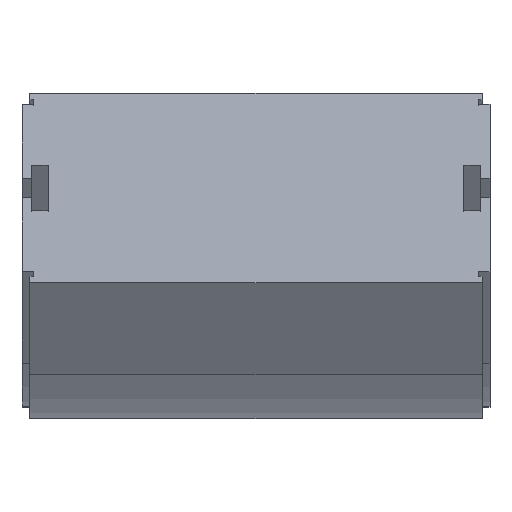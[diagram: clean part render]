
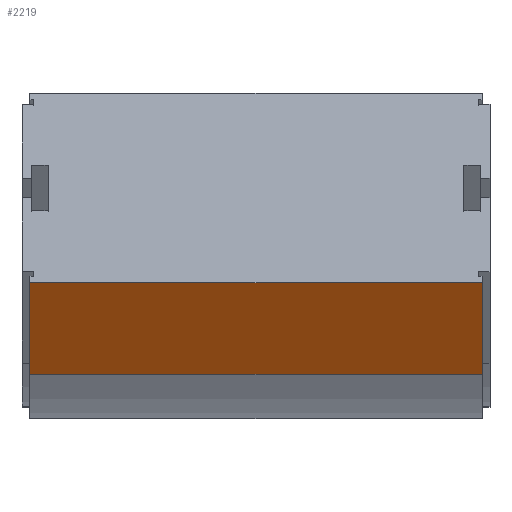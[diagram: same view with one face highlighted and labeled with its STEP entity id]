
A CAD part, top view. The second image highlights one B-rep face of the part: STEP entity #2219.
In plain terms, the highlighted planar face has unit normal (0, -0.966, 0.259).
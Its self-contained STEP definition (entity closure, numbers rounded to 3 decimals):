
#29 = DIRECTION ( 'NONE',  ( 0., 0.966, -0.259 ) ) ;
#76 = CARTESIAN_POINT ( 'NONE',  ( -96.65, 15.291, 435.169 ) ) ;
#205 = EDGE_CURVE ( 'NONE', #2377, #754, #1942, .T. ) ;
#250 = DIRECTION ( 'NONE',  ( 0., 0.259, 0.966 ) ) ;
#328 = ORIENTED_EDGE ( 'NONE', *, *, #920, .F. ) ;
#681 = DIRECTION ( 'NONE',  ( -1., 0., 0. ) ) ;
#754 = VERTEX_POINT ( 'NONE', #2047 ) ;
#792 = EDGE_LOOP ( 'NONE', ( #328, #2247, #1402, #2139 ) ) ;
#793 = LINE ( 'NONE', #800, #3051 ) ;
#800 = CARTESIAN_POINT ( 'NONE',  ( 96.65, -23.532, 290.28 ) ) ;
#815 = CARTESIAN_POINT ( 'NONE',  ( 96.65, 15.291, 435.169 ) ) ;
#845 = DIRECTION ( 'NONE',  ( -1., 0., 0. ) ) ;
#872 = LINE ( 'NONE', #3098, #2833 ) ;
#920 = EDGE_CURVE ( 'NONE', #1802, #2377, #872, .T. ) ;
#1091 = EDGE_CURVE ( 'NONE', #1802, #2417, #793, .T. ) ;
#1153 = VECTOR ( 'NONE', #845, 1000. ) ;
#1203 = EDGE_CURVE ( 'NONE', #2417, #754, #3094, .T. ) ;
#1297 = VECTOR ( 'NONE', #2491, 1000. ) ;
#1402 = ORIENTED_EDGE ( 'NONE', *, *, #1203, .T. ) ;
#1494 = CARTESIAN_POINT ( 'NONE',  ( -96.65, -23.532, 290.28 ) ) ;
#1589 = FACE_OUTER_BOUND ( 'NONE', #792, .T. ) ;
#1802 = VERTEX_POINT ( 'NONE', #2459 ) ;
#1942 = LINE ( 'NONE', #2753, #1297 ) ;
#2047 = CARTESIAN_POINT ( 'NONE',  ( -96.65, 15.291, 435.169 ) ) ;
#2139 = ORIENTED_EDGE ( 'NONE', *, *, #205, .F. ) ;
#2219 = ADVANCED_FACE ( 'NONE', ( #1589 ), #2687, .F. ) ;
#2247 = ORIENTED_EDGE ( 'NONE', *, *, #1091, .T. ) ;
#2377 = VERTEX_POINT ( 'NONE', #1494 ) ;
#2417 = VERTEX_POINT ( 'NONE', #815 ) ;
#2459 = CARTESIAN_POINT ( 'NONE',  ( 96.65, -23.532, 290.28 ) ) ;
#2491 = DIRECTION ( 'NONE',  ( 0., 0.259, 0.966 ) ) ;
#2642 = CARTESIAN_POINT ( 'NONE',  ( -96.65, -23.532, 290.28 ) ) ;
#2687 = PLANE ( 'NONE',  #2709 ) ;
#2693 = DIRECTION ( 'NONE',  ( 0., 0.259, 0.966 ) ) ;
#2709 = AXIS2_PLACEMENT_3D ( 'NONE', #2642, #29, #250 ) ;
#2753 = CARTESIAN_POINT ( 'NONE',  ( -96.65, -23.532, 290.28 ) ) ;
#2833 = VECTOR ( 'NONE', #681, 1000. ) ;
#3051 = VECTOR ( 'NONE', #2693, 1000. ) ;
#3094 = LINE ( 'NONE', #76, #1153 ) ;
#3098 = CARTESIAN_POINT ( 'NONE',  ( -96.65, -23.532, 290.28 ) ) ;
